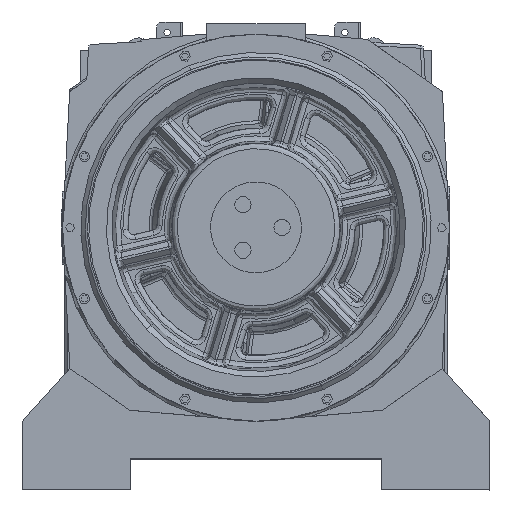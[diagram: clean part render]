
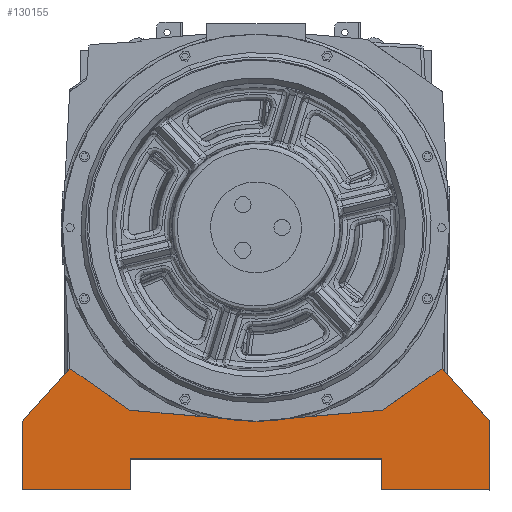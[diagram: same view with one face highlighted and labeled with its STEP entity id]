
A CAD part, top view. The second image highlights one B-rep face of the part: STEP entity #130155.
In plain terms, the highlighted planar face has unit normal (0, 0, 1).
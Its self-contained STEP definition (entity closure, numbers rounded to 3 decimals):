
#1020 = CARTESIAN_POINT ( 'NONE',  ( -261.671, -134.363, 255. ) ) ;
#2152 = LINE ( 'NONE', #96815, #62547 ) ;
#2173 = DIRECTION ( 'NONE',  ( 0., 1., 0. ) ) ;
#2747 = EDGE_CURVE ( 'NONE', #72617, #114606, #43781, .T. ) ;
#3692 = VECTOR ( 'NONE', #132871, 1000. ) ;
#3827 = VECTOR ( 'NONE', #78112, 1000. ) ;
#5208 = VERTEX_POINT ( 'NONE', #86600 ) ;
#5371 = LINE ( 'NONE', #44846, #148263 ) ;
#6992 = CARTESIAN_POINT ( 'NONE',  ( 81.284, -145.466, 255. ) ) ;
#9118 = EDGE_CURVE ( 'NONE', #81079, #5208, #79285, .T. ) ;
#10256 = CARTESIAN_POINT ( 'NONE',  ( -364.626, -211.036, 255. ) ) ;
#12783 = LINE ( 'NONE', #95064, #37008 ) ;
#13796 = CARTESIAN_POINT ( 'NONE',  ( -261.671, -225.036, 255. ) ) ;
#14548 = DIRECTION ( 'NONE',  ( -1., 0., 0. ) ) ;
#14684 = FACE_OUTER_BOUND ( 'NONE', #118251, .T. ) ;
#15446 = DIRECTION ( 'NONE',  ( 0., 0., -1. ) ) ;
#16165 = CARTESIAN_POINT ( 'NONE',  ( -262.5, -135.466, 255. ) ) ;
#17384 = CARTESIAN_POINT ( 'NONE',  ( -20.842, -135.466, 255. ) ) ;
#18636 = ORIENTED_EDGE ( 'NONE', *, *, #76695, .T. ) ;
#22179 = AXIS2_PLACEMENT_3D ( 'NONE', #27085, #15446, #49566 ) ;
#22871 = DIRECTION ( 'NONE',  ( -0.996, 0.087, 0. ) ) ;
#23934 = EDGE_CURVE ( 'NONE', #138477, #64239, #65677, .T. ) ;
#24732 = AXIS2_PLACEMENT_3D ( 'NONE', #138489, #139250, #151685 ) ;
#26829 = VECTOR ( 'NONE', #95474, 1000. ) ;
#27085 = CARTESIAN_POINT ( 'NONE',  ( -141.671, 38.963, 255. ) ) ;
#29426 = VERTEX_POINT ( 'NONE', #112974 ) ;
#30022 = EDGE_CURVE ( 'NONE', #136924, #98909, #84415, .T. ) ;
#30779 = CARTESIAN_POINT ( 'NONE',  ( 81.284, -145.466, 255. ) ) ;
#32709 = VECTOR ( 'NONE', #141123, 1000. ) ;
#33296 = VERTEX_POINT ( 'NONE', #56733 ) ;
#35893 = EDGE_CURVE ( 'NONE', #68641, #47586, #128401, .T. ) ;
#37008 = VECTOR ( 'NONE', #129953, 1000. ) ;
#38528 = CARTESIAN_POINT ( 'NONE',  ( -319.626, -95.466, 255. ) ) ;
#38687 = EDGE_CURVE ( 'NONE', #5208, #33296, #60997, .T. ) ;
#38803 = ORIENTED_EDGE ( 'NONE', *, *, #135719, .T. ) ;
#38889 = CARTESIAN_POINT ( 'NONE',  ( -141.671, -146.037, 255. ) ) ;
#39351 = VECTOR ( 'NONE', #57921, 1000. ) ;
#42877 = AXIS2_PLACEMENT_3D ( 'NONE', #149364, #146307, #78784 ) ;
#43704 = ORIENTED_EDGE ( 'NONE', *, *, #50552, .T. ) ;
#43781 = LINE ( 'NONE', #89590, #62127 ) ;
#44846 = CARTESIAN_POINT ( 'NONE',  ( -261.671, -182.036, 255. ) ) ;
#44997 = CARTESIAN_POINT ( 'NONE',  ( 81.284, -211.036, 255. ) ) ;
#47582 = DIRECTION ( 'NONE',  ( -0.819, 0.574, 0. ) ) ;
#47586 = VERTEX_POINT ( 'NONE', #139578 ) ;
#48752 = VERTEX_POINT ( 'NONE', #16165 ) ;
#49566 = DIRECTION ( 'NONE',  ( 1., 0., 0. ) ) ;
#50552 = EDGE_CURVE ( 'NONE', #72617, #85625, #136670, .T. ) ;
#54532 = VECTOR ( 'NONE', #95818, 1000. ) ;
#56733 = CARTESIAN_POINT ( 'NONE',  ( -364.626, -211.036, 255. ) ) ;
#57354 = ORIENTED_EDGE ( 'NONE', *, *, #96159, .F. ) ;
#57921 = DIRECTION ( 'NONE',  ( -0.819, -0.574, 0. ) ) ;
#59998 = CARTESIAN_POINT ( 'NONE',  ( -261.671, -136.046, 255. ) ) ;
#60997 = LINE ( 'NONE', #106839, #150279 ) ;
#62127 = VECTOR ( 'NONE', #66286, 1000. ) ;
#62525 = EDGE_CURVE ( 'NONE', #127227, #48752, #107365, .T. ) ;
#62547 = VECTOR ( 'NONE', #14548, 1000. ) ;
#64239 = VERTEX_POINT ( 'NONE', #6992 ) ;
#65677 = LINE ( 'NONE', #30779, #3827 ) ;
#65774 = EDGE_CURVE ( 'NONE', #136924, #33296, #71505, .T. ) ;
#66286 = DIRECTION ( 'NONE',  ( 0.052, -0.999, 0. ) ) ;
#66476 = ORIENTED_EDGE ( 'NONE', *, *, #126861, .T. ) ;
#68537 = ORIENTED_EDGE ( 'NONE', *, *, #62525, .T. ) ;
#68641 = VERTEX_POINT ( 'NONE', #38889 ) ;
#71505 = LINE ( 'NONE', #10256, #147771 ) ;
#72617 = VERTEX_POINT ( 'NONE', #77159 ) ;
#76244 = CARTESIAN_POINT ( 'NONE',  ( -261.671, -136.046, 255. ) ) ;
#76695 = EDGE_CURVE ( 'NONE', #127576, #96561, #92866, .T. ) ;
#76992 = DIRECTION ( 'NONE',  ( -0.819, 0.574, 0. ) ) ;
#77159 = CARTESIAN_POINT ( 'NONE',  ( -319.691, -94.225, 255. ) ) ;
#78112 = DIRECTION ( 'NONE',  ( 0., 1., 0. ) ) ;
#78784 = DIRECTION ( 'NONE',  ( -1., 0., 0. ) ) ;
#79285 = CIRCLE ( 'NONE', #24732, 3. ) ;
#80367 = EDGE_CURVE ( 'NONE', #64239, #127576, #139584, .T. ) ;
#81079 = VERTEX_POINT ( 'NONE', #111022 ) ;
#84415 = LINE ( 'NONE', #13796, #90025 ) ;
#85625 = VERTEX_POINT ( 'NONE', #149905 ) ;
#85833 = DIRECTION ( 'NONE',  ( 0., -1., 0. ) ) ;
#86600 = CARTESIAN_POINT ( 'NONE',  ( -364.626, -146.617, 255. ) ) ;
#89418 = LINE ( 'NONE', #76244, #96737 ) ;
#89590 = CARTESIAN_POINT ( 'NONE',  ( -326.164, 29.294, 255. ) ) ;
#90025 = VECTOR ( 'NONE', #2173, 1000. ) ;
#90163 = VECTOR ( 'NONE', #22871, 1000. ) ;
#91448 = CARTESIAN_POINT ( 'NONE',  ( -261.671, -136.046, 255. ) ) ;
#92866 = LINE ( 'NONE', #106796, #39351 ) ;
#95064 = CARTESIAN_POINT ( 'NONE',  ( -141.671, -146.037, 255. ) ) ;
#95474 = DIRECTION ( 'NONE',  ( -0.669, -0.743, 0. ) ) ;
#95818 = DIRECTION ( 'NONE',  ( 0., -1., 0. ) ) ;
#96159 = EDGE_CURVE ( 'NONE', #138477, #29426, #2152, .T. ) ;
#96561 = VERTEX_POINT ( 'NONE', #17384 ) ;
#96737 = VECTOR ( 'NONE', #76992, 1000. ) ;
#96815 = CARTESIAN_POINT ( 'NONE',  ( -364.626, -211.036, 255. ) ) ;
#97275 = ORIENTED_EDGE ( 'NONE', *, *, #144797, .T. ) ;
#98909 = VERTEX_POINT ( 'NONE', #135218 ) ;
#103611 = CARTESIAN_POINT ( 'NONE',  ( -141.671, -146.037, 255. ) ) ;
#105168 = CARTESIAN_POINT ( 'NONE',  ( -21.671, -182.036, 255. ) ) ;
#106456 = ORIENTED_EDGE ( 'NONE', *, *, #30022, .T. ) ;
#106796 = CARTESIAN_POINT ( 'NONE',  ( -20.842, -135.466, 255. ) ) ;
#106839 = CARTESIAN_POINT ( 'NONE',  ( -364.626, -145.466, 255. ) ) ;
#107365 = LINE ( 'NONE', #59998, #115291 ) ;
#107446 = CARTESIAN_POINT ( 'NONE',  ( -21.671, -225.036, 255. ) ) ;
#107866 = LINE ( 'NONE', #142738, #26829 ) ;
#107926 = VERTEX_POINT ( 'NONE', #105168 ) ;
#110935 = ORIENTED_EDGE ( 'NONE', *, *, #65774, .F. ) ;
#111022 = CARTESIAN_POINT ( 'NONE',  ( -363.856, -144.61, 255. ) ) ;
#112974 = CARTESIAN_POINT ( 'NONE',  ( -21.671, -211.036, 255. ) ) ;
#113385 = ORIENTED_EDGE ( 'NONE', *, *, #38687, .T. ) ;
#114606 = VERTEX_POINT ( 'NONE', #38528 ) ;
#115291 = VECTOR ( 'NONE', #47582, 1000. ) ;
#116015 = ORIENTED_EDGE ( 'NONE', *, *, #80367, .T. ) ;
#117298 = CARTESIAN_POINT ( 'NONE',  ( -261.671, -211.036, 255. ) ) ;
#118251 = EDGE_LOOP ( 'NONE', ( #113385, #110935, #106456, #148949, #97275, #57354, #134413, #116015, #18636, #149066, #149341, #38803, #68537, #138018, #146451, #43704, #66476, #151258 ) ) ;
#126861 = EDGE_CURVE ( 'NONE', #85625, #81079, #107866, .T. ) ;
#127113 = EDGE_CURVE ( 'NONE', #98909, #107926, #5371, .T. ) ;
#127227 = VERTEX_POINT ( 'NONE', #91448 ) ;
#127576 = VERTEX_POINT ( 'NONE', #149409 ) ;
#128401 = LINE ( 'NONE', #103611, #90163 ) ;
#128633 = EDGE_CURVE ( 'NONE', #48752, #114606, #89418, .T. ) ;
#129953 = DIRECTION ( 'NONE',  ( -0.996, -0.087, 0. ) ) ;
#130155 = ADVANCED_FACE ( 'NONE', ( #14684 ), #133353, .F. ) ;
#132871 = DIRECTION ( 'NONE',  ( 0., -1., 0. ) ) ;
#133353 = PLANE ( 'NONE',  #22179 ) ;
#134413 = ORIENTED_EDGE ( 'NONE', *, *, #23934, .T. ) ;
#135218 = CARTESIAN_POINT ( 'NONE',  ( -261.671, -182.036, 255. ) ) ;
#135719 = EDGE_CURVE ( 'NONE', #47586, #127227, #144474, .T. ) ;
#136670 = CIRCLE ( 'NONE', #42877, 3. ) ;
#136924 = VERTEX_POINT ( 'NONE', #117298 ) ;
#138018 = ORIENTED_EDGE ( 'NONE', *, *, #128633, .T. ) ;
#138477 = VERTEX_POINT ( 'NONE', #44997 ) ;
#138489 = CARTESIAN_POINT ( 'NONE',  ( -361.626, -146.617, 255. ) ) ;
#139250 = DIRECTION ( 'NONE',  ( 0., 0., 1. ) ) ;
#139578 = CARTESIAN_POINT ( 'NONE',  ( -261.671, -135.538, 255. ) ) ;
#139584 = LINE ( 'NONE', #152788, #32709 ) ;
#141123 = DIRECTION ( 'NONE',  ( -0.669, 0.743, 0. ) ) ;
#142693 = EDGE_CURVE ( 'NONE', #96561, #68641, #12783, .T. ) ;
#142738 = CARTESIAN_POINT ( 'NONE',  ( -319.626, -95.466, 255. ) ) ;
#144474 = LINE ( 'NONE', #1020, #3692 ) ;
#144797 = EDGE_CURVE ( 'NONE', #107926, #29426, #152457, .T. ) ;
#146307 = DIRECTION ( 'NONE',  ( 0., 0., -1. ) ) ;
#146451 = ORIENTED_EDGE ( 'NONE', *, *, #2747, .F. ) ;
#147771 = VECTOR ( 'NONE', #152209, 1000. ) ;
#148263 = VECTOR ( 'NONE', #151922, 1000. ) ;
#148949 = ORIENTED_EDGE ( 'NONE', *, *, #127113, .T. ) ;
#149066 = ORIENTED_EDGE ( 'NONE', *, *, #142693, .T. ) ;
#149341 = ORIENTED_EDGE ( 'NONE', *, *, #35893, .T. ) ;
#149364 = CARTESIAN_POINT ( 'NONE',  ( -322.687, -94.382, 255. ) ) ;
#149409 = CARTESIAN_POINT ( 'NONE',  ( 36.284, -95.466, 255. ) ) ;
#149905 = CARTESIAN_POINT ( 'NONE',  ( -320.457, -96.389, 255. ) ) ;
#150279 = VECTOR ( 'NONE', #85833, 1000. ) ;
#151258 = ORIENTED_EDGE ( 'NONE', *, *, #9118, .T. ) ;
#151685 = DIRECTION ( 'NONE',  ( -1., 0., 0. ) ) ;
#151922 = DIRECTION ( 'NONE',  ( 1., 0., 0. ) ) ;
#152209 = DIRECTION ( 'NONE',  ( -1., 0., 0. ) ) ;
#152457 = LINE ( 'NONE', #107446, #54532 ) ;
#152788 = CARTESIAN_POINT ( 'NONE',  ( 36.284, -95.466, 255. ) ) ;
